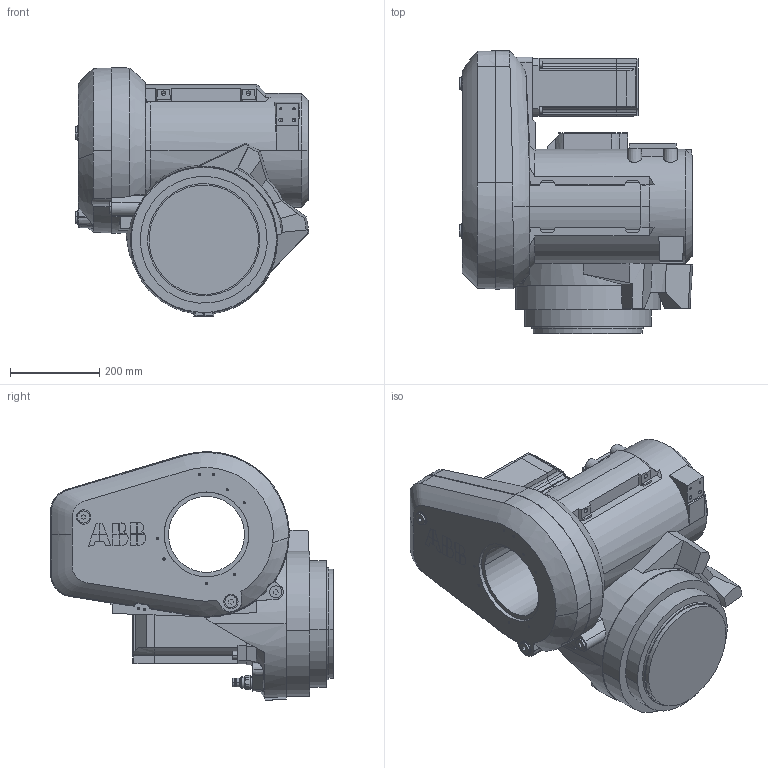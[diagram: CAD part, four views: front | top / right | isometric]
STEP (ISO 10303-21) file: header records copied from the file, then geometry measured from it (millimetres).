
FILE_DESCRIPTION (( 'STEP AP203' ), '1' );
FILE_NAME ('IRB6700_200_280_MH_link3_CAD_04.STEP', '2013-10-23T12:32:44', ( 'ABB' ), ( 'ABB' ), 'SwSTEP 2.0', 'SolidWorks 2012', '' );
FILE_SCHEMA (( 'CONFIG_CONTROL_DESIGN' ));
Length unit declared in the file: millimetre
Products named in the file (1): IRB6700_200_280_MH_link3_CAD_04
Bounding box: 522.27 x 632.9 x 556.63 mm (x, y, z)
Volume: 55322756.7 mm3; surface area: 1745707 mm2
Topology: 1 solids, 1 shells, 720 faces, 1861 edges, 1171 vertices
Faces by surface type: plane 393, cylinder 164, cone 143, bspline 20
Entity records: 25159 total; most frequent: CARTESIAN_POINT 8002, ORIENTED_EDGE 3638, DIRECTION 3407, EDGE_CURVE 1819, VERTEX_POINT 1171, AXIS2_PLACEMENT_3D 1147, VECTOR 1113, LINE 1113
